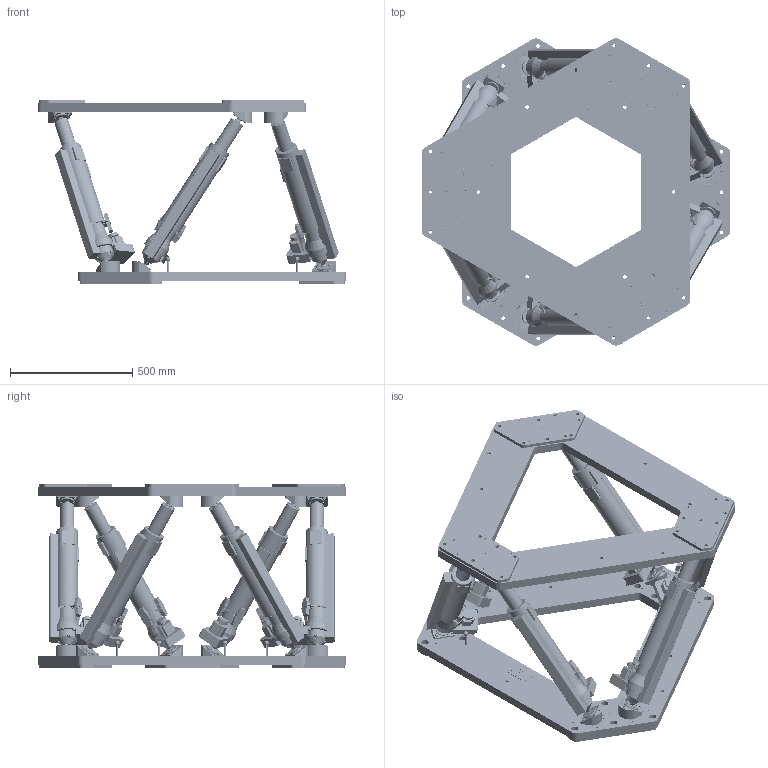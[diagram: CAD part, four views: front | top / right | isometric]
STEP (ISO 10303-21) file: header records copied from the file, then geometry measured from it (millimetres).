
FILE_DESCRIPTION (( 'STEP AP203' ), '1' );
FILE_NAME ('STD01_0000-1_JORAN BJ_Hexapod_C0.STEP', '2023-02-06T12:36:37', ( '' ), ( '' ), 'SwSTEP 2.0', 'SolidWorks 2021', '' );
FILE_SCHEMA (( 'CONFIG_CONTROL_DESIGN' ));
Length unit declared in the file: millimetre
Products named in the file (28): STD01_0330_Articulation Corps Actionneur; STD01_0200_Actionneur_RT Light; STD01_0100_Plateaux_Plateau Mobile Rotule ; ISO 4762 M8 x 20 - 20N-Inox-A2_ISO 4762 M8 x 20 - 20N-Inox-A2; STD01_0160_Plateau Mobile_Rotule; STD01_0100_Plateaux_Plateau Fixe Rotule ; STD01_0211_Corps Actionneur_Light; STD01_0110_Plateau Fixe_Rotule; STD01_0300_Articulation Rotule_Sabot Light; STD01_0210_Corps Actionneur articule_Rot Light; STD01_0212_Corps actionneur; STD01_1100_Plateau Alu_ROT-PM; STD01_0320_Articulation Plateau; STD01_0320_Articulation Plateau_Light; STD01_1104_Platine interface; STD01_0220_Tige Actionneur articule_Light Rotule; STD01_0330_Articulation Corps Actionneur_Light; STD01_1100_Plateau Alu_ROT-PF; 14315_2101_Levier fixe; C0020_1004_Douille cylindrique d10-D17-L11.5; C0003_1008_Plaque identification 60x100_Interne; STD01_0000-1_JORAN BJ_Hexapod_C0; STD01_0220_Tige Actionneur articule
Assembly tree (108 placements, depth 5):
  STD01_0000-1_JORAN BJ_Hexapod_C0
    STD01_0100_Plateaux_Plateau Fixe Rotule 
      STD01_0110_Plateau Fixe_Rotule
        STD01_1100_Plateau Alu_ROT-PF
        STD01_1104_Platine interface  x3
        C0003_1008_Plaque identification 60x100_Interne
        ISO 4762 M8 x 20 - 20N-Inox-A2_ISO 4762 M8 x 20 - 20N-Inox-A2  x24
        C0020_1004_Douille cylindrique d10-D17-L11.5  x2
        14315_2101_Levier fixe  x6
    STD01_0100_Plateaux_Plateau Mobile Rotule 
      STD01_0160_Plateau Mobile_Rotule
        STD01_1100_Plateau Alu_ROT-PM
        STD01_1104_Platine interface  x3
        ISO 4762 M8 x 20 - 20N-Inox-A2_ISO 4762 M8 x 20 - 20N-Inox-A2  x24
        C0020_1004_Douille cylindrique d10-D17-L11.5  x2
    STD01_0200_Actionneur_RT Light
      STD01_0210_Corps Actionneur articule_Rot Light
        STD01_0330_Articulation Corps Actionneur_Light
          STD01_0330_Articulation Corps Actionneur
        STD01_0211_Corps Actionneur_Light
          STD01_0212_Corps actionneur
      STD01_0220_Tige Actionneur articule_Light Rotule
        STD01_0220_Tige Actionneur articule
      STD01_0300_Articulation Rotule_Sabot Light  x2
        STD01_0320_Articulation Plateau_Light
          STD01_0320_Articulation Plateau
    STD01_0200_Actionneur_RT Light
      STD01_0210_Corps Actionneur articule_Rot Light
        STD01_0330_Articulation Corps Actionneur_Light
          STD01_0330_Articulation Corps Actionneur
        STD01_0211_Corps Actionneur_Light
          STD01_0212_Corps actionneur
      STD01_0220_Tige Actionneur articule_Light Rotule
        STD01_0220_Tige Actionneur articule
      STD01_0300_Articulation Rotule_Sabot Light  x2
        STD01_0320_Articulation Plateau_Light
          STD01_0320_Articulation Plateau
    STD01_0200_Actionneur_RT Light
      STD01_0210_Corps Actionneur articule_Rot Light
        STD01_0330_Articulation Corps Actionneur_Light
          STD01_0330_Articulation Corps Actionneur
        STD01_0211_Corps Actionneur_Light
          STD01_0212_Corps actionneur
      STD01_0220_Tige Actionneur articule_Light Rotule
        STD01_0220_Tige Actionneur articule
      STD01_0300_Articulation Rotule_Sabot Light  x2
        STD01_0320_Articulation Plateau_Light
          STD01_0320_Articulation Plateau
    STD01_0200_Actionneur_RT Light
      STD01_0210_Corps Actionneur articule_Rot Light
        STD01_0330_Articulation Corps Actionneur_Light
          STD01_0330_Articulation Corps Actionneur
        STD01_0211_Corps Actionneur_Light
          STD01_0212_Corps actionneur
      STD01_0220_Tige Actionneur articule_Light Rotule
        STD01_0220_Tige Actionneur articule
      STD01_0300_Articulation Rotule_Sabot Light  x2
        STD01_0320_Articulation Plateau_Light
          STD01_0320_Articulation Plateau
    STD01_0200_Actionneur_RT Light
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Bounding box: 1260 x 1257.89 x 750 mm (x, y, z)
Volume: 83017507.7 mm3; surface area: 6441341.6 mm2
Topology: 97 solids, 97 shells, 8605 faces, 21479 edges, 13684 vertices
Faces by surface type: plane 3963, cylinder 2320, bspline 1178, cone 628, torus 492, sphere 24
Entity records: 162423 total; most frequent: CARTESIAN_POINT 75917, ORIENTED_EDGE 18296, DIRECTION 13907, EDGE_CURVE 9148, VERTEX_POINT 6018, LINE 5187, VECTOR 5187, AXIS2_PLACEMENT_3D 4360
